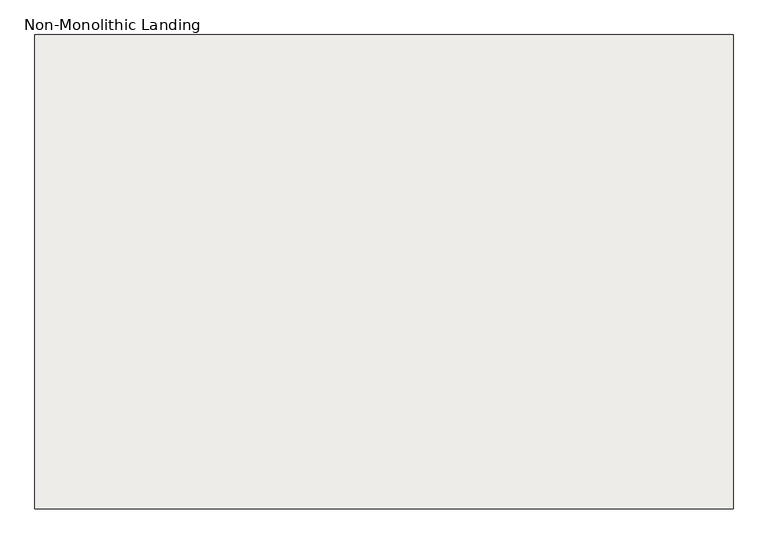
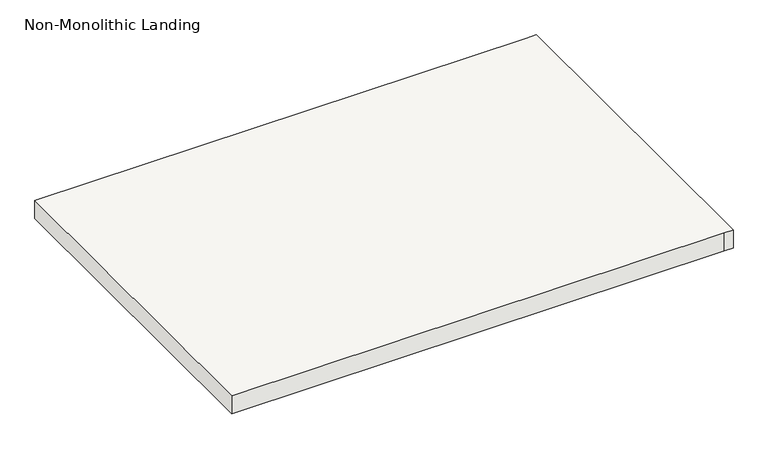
"""IFC4 building model written with IfcOpenShell, lengths in millimetres: slab geometry, Non-Monolithic Landing."""

from ifc_helpers import new_model, si_unit, frame, origin, place, context, project, spatial, polyline, outline, extrude, source, transform, mapped, element, save


def non_monolithic_landing_17ffbc2a(model_context):
    return source(origin(), model_context, "Body", "SweptSolid", [
        extrude(outline(polyline([(-47289.3645607, 15794.6177722), (-45968.5645607, 15794.6177722), (-45943.1645607, 15794.6177722), (-45943.1645607, 14880.2177722), (-45968.5645607, 14880.2177722), (-47289.3645607, 14880.2177722), (-47289.3645607, 15794.6177722)])), frame((0.0, 0.0, 2126.3428571), z_axis=(0.0, 0.0, 1.0), x_axis=(1.0, 0.0, 0.0)), (0.0, 0.0, 1.0), 50.8),
    ])


if __name__ == "__main__":
    model = new_model("IFC4")
    model_context = context("Model", 3, world=origin())
    ifc_project = project(units=[si_unit("LENGTHUNIT", "METRE", prefix="MILLI")], contexts=[model_context])
    site = spatial("IfcSite", under=ifc_project)
    building = spatial("IfcBuilding", under=site)
    placement = place(None, origin())
    non_monolithic_landing_shape = non_monolithic_landing_17ffbc2a(model_context)
    element("IfcSlab", 1, ObjectType="Non-Monolithic Landing", at=placement, inside=building, context=model_context, shape_type="MappedRepresentation", body=[
        mapped(non_monolithic_landing_shape, transform((0.0, 0.0, 0.0), x_axis=(1.0, 0.0, 0.0), y_axis=(0.0, 1.0, 0.0), z_axis=(0.0, 0.0, 1.0))),
    ])
    save(model, "model.ifc")
